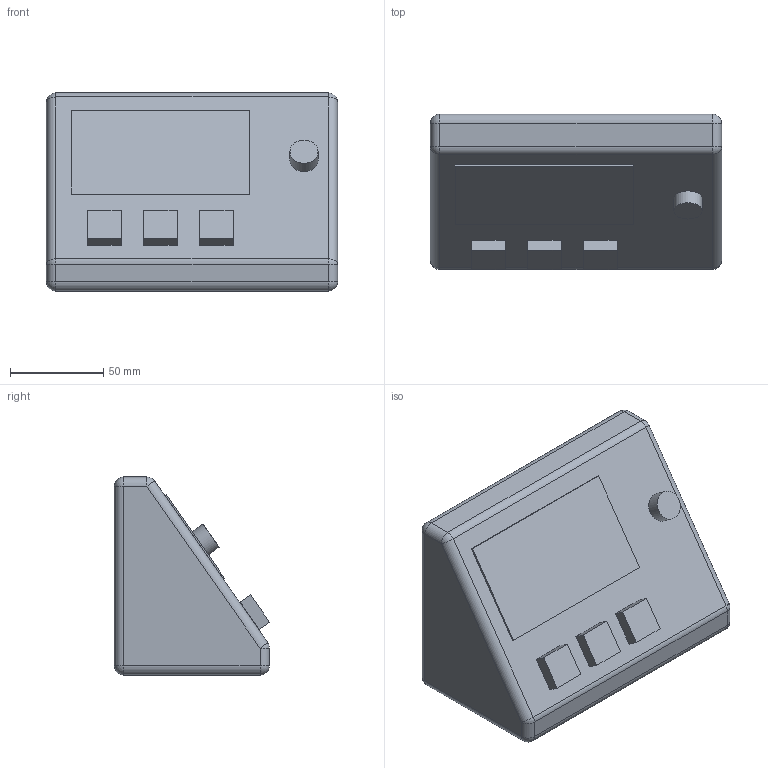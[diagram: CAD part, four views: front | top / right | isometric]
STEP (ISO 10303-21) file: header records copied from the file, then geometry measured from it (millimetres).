
FILE_DESCRIPTION(('Open CASCADE Model'),'2;1');
FILE_NAME('Open CASCADE Shape Model','2026-10-21T00:25:05',('Author'),( 'Open CASCADE'),'Open CASCADE STEP processor 7.9','Open CASCADE 7.9' ,'Unknown');
FILE_SCHEMA(('AUTOMOTIVE_DESIGN { 1 0 10303 214 1 1 1 1 }'));
Length unit declared in the file: millimetre
Products named in the file (13): SpotifyDeskRevB_rounded; case; display_envelope; visible; knob; encoder_envelope; aw9523b; keycap_1; switch_envelope_1; keycap_2; switch_envelope_2; keycap_3; switch_envelope_3
Assembly tree (12 placements, depth 2):
  SpotifyDeskRevB_rounded
    case
    display_envelope
    visible
    knob
    encoder_envelope
    aw9523b
    keycap_1
    switch_envelope_1
    keycap_2
    switch_envelope_2
    keycap_3
    switch_envelope_3
Bounding box: 156 x 83.26 x 106.11 mm (x, y, z)
Volume: 209075.7 mm3; surface area: 132261.1 mm2
Topology: 12 solids, 12 shells, 127 faces, 283 edges, 172 vertices
Faces by surface type: plane 96, cylinder 21, sphere 10
Full cylindrical faces by diameter (mm): 7.3 x1, 15.1 x1
Entity records: 7139 total; most frequent: CARTESIAN_POINT 1283, DIRECTION 1014, LINE 643, VECTOR 643, ORIENTED_EDGE 546, PCURVE 546, DEFINITIONAL_REPRESENTATION 546, EDGE_CURVE 273
